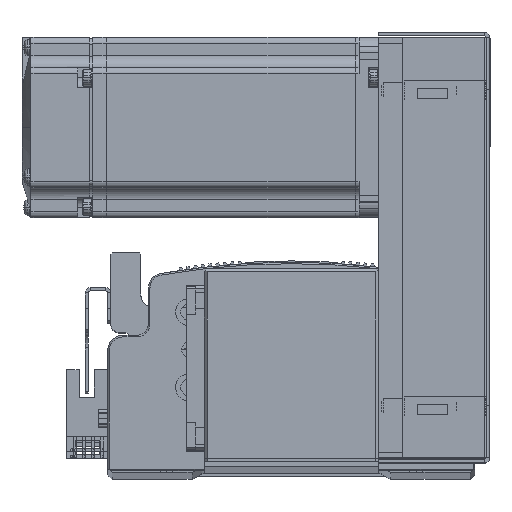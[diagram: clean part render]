
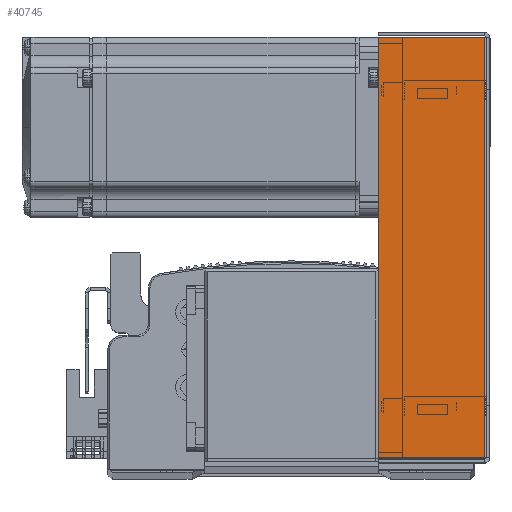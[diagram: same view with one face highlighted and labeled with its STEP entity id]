
A CAD part, top view. The second image highlights one B-rep face of the part: STEP entity #40745.
In plain terms, the highlighted planar face has unit normal (0, 0, 1) as drawn and (0, 0, -1) by its records, which use the part's own axes.
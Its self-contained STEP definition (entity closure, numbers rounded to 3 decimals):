
#8287 = CARTESIAN_POINT ( 'NONE',  ( -69.793, 0.737, -33.5 ) ) ;
#8333 = CARTESIAN_POINT ( 'NONE',  ( 69.793, 36., -33.5 ) ) ;
#8349 = CARTESIAN_POINT ( 'NONE',  ( -69.793, 36., -33.5 ) ) ;
#11352 = CARTESIAN_POINT ( 'NONE',  ( 69.793, 0.737, -33.5 ) ) ;
#12925 = EDGE_LOOP ( 'NONE', ( #88544, #88558, #88467, #88561 ) ) ;
#13333 = AXIS2_PLACEMENT_3D ( 'NONE', #52243, #52244, #52255 ) ;
#27190 = LINE ( 'NONE', #74158, #27464 ) ;
#27354 = VECTOR ( 'NONE', #74696, 1000. ) ;
#27382 = LINE ( 'NONE', #74683, #27354 ) ;
#27464 = VECTOR ( 'NONE', #74198, 1000. ) ;
#28179 = LINE ( 'NONE', #75514, #28181 ) ;
#28180 = VECTOR ( 'NONE', #67021, 1000. ) ;
#28181 = VECTOR ( 'NONE', #74088, 1000. ) ;
#28217 = LINE ( 'NONE', #67005, #28180 ) ;
#32737 = FACE_OUTER_BOUND ( 'NONE', #12925, .T. ) ;
#40745 = ADVANCED_FACE ( 'NONE', ( #32737 ), #52236, .F. ) ;
#52236 = PLANE ( 'NONE',  #13333 ) ;
#52243 = CARTESIAN_POINT ( 'NONE',  ( 0., 0., -33.5 ) ) ;
#52244 = DIRECTION ( 'NONE',  ( 0., 0., 1. ) ) ;
#52255 = DIRECTION ( 'NONE',  ( 0., -1., 0. ) ) ;
#67005 = CARTESIAN_POINT ( 'NONE',  ( 0., 36., -33.5 ) ) ;
#67021 = DIRECTION ( 'NONE',  ( 1., 0., 0. ) ) ;
#71176 = EDGE_CURVE ( 'NONE', #89740, #89639, #28217, .T. ) ;
#71200 = EDGE_CURVE ( 'NONE', #89641, #89740, #28179, .T. ) ;
#71220 = EDGE_CURVE ( 'NONE', #89593, #89639, #27190, .T. ) ;
#71294 = EDGE_CURVE ( 'NONE', #89641, #89593, #27382, .T. ) ;
#74088 = DIRECTION ( 'NONE',  ( 0., 1., 0. ) ) ;
#74158 = CARTESIAN_POINT ( 'NONE',  ( 69.793, 0., -33.5 ) ) ;
#74198 = DIRECTION ( 'NONE',  ( 0., 1., 0. ) ) ;
#74683 = CARTESIAN_POINT ( 'NONE',  ( 71.5, 0.737, -33.5 ) ) ;
#74696 = DIRECTION ( 'NONE',  ( 1., 0., 0. ) ) ;
#75514 = CARTESIAN_POINT ( 'NONE',  ( -69.793, 0., -33.5 ) ) ;
#88467 = ORIENTED_EDGE ( 'NONE', *, *, #71176, .T. ) ;
#88544 = ORIENTED_EDGE ( 'NONE', *, *, #71294, .F. ) ;
#88558 = ORIENTED_EDGE ( 'NONE', *, *, #71200, .T. ) ;
#88561 = ORIENTED_EDGE ( 'NONE', *, *, #71220, .F. ) ;
#89593 = VERTEX_POINT ( 'NONE', #11352 ) ;
#89639 = VERTEX_POINT ( 'NONE', #8333 ) ;
#89641 = VERTEX_POINT ( 'NONE', #8287 ) ;
#89740 = VERTEX_POINT ( 'NONE', #8349 ) ;
